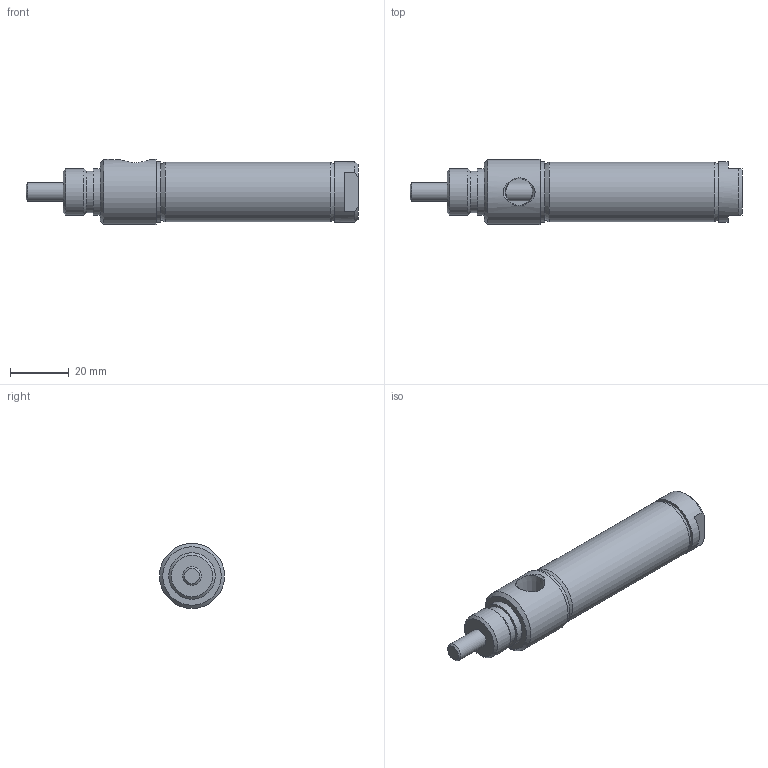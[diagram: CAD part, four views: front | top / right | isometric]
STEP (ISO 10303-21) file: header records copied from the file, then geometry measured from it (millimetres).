
FILE_DESCRIPTION( ( 'STEP AP214' ), '1' );
FILE_NAME( 'p:/temp/worker_473/temp/exporttempdir_4476_43_bDKrY/format_0/0750D01-01A-03.stp', '2020-05-07T14:29:32', ( 'License CC BY-ND 4.0' ), ( 'CADENAS' ), ' ', 'PARTsolutions', ' ' );
FILE_SCHEMA( ( 'AUTOMOTIVE_DESIGN { 1 0 10303 214 1 1 1 1 }' ) );
Length unit declared in the file: inch
Products named in the file (3): 0750D01-01A-03; _0750D01-01A-030b; _0750D01-01A-030r
Assembly tree (2 placements, depth 2):
  0750D01-01A-03
    _0750D01-01A-030b
    _0750D01-01A-030r
Bounding box: 113.51 x 22.23 x 22.23 mm (x, y, z)
Volume: 24702.1 mm3; surface area: 15591.5 mm2
Topology: 2 solids, 2 shells, 44 faces, 85 edges, 54 vertices
Faces by surface type: plane 19, cone 13, cylinder 12
Full cylindrical faces by diameter (mm): 6.35 x3, 14.196 x1, 15.85 x1, 15.875 x1, 19.05 x2, 20.472 x1, 20.65 x2, 22.225 x1
Entity records: 1546 total; most frequent: CARTESIAN_POINT 317, DIRECTION 186, ORIENTED_EDGE 122, AXIS2_PLACEMENT_3D 88, EDGE_LOOP 78, EDGE_CURVE 61, FACE_OUTER_BOUND 56, VERTEX_POINT 51
